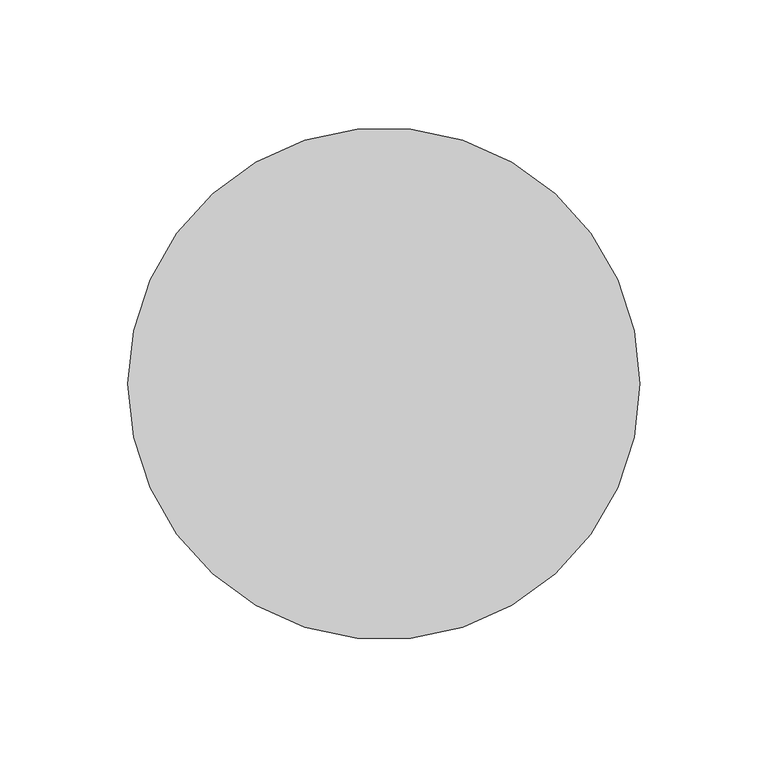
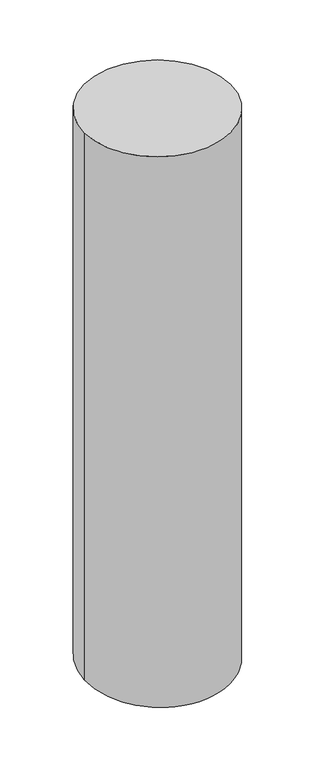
"""IFC4 building model written with IfcOpenShell, lengths in millimetres: member geometry, 矩形竖梃 : 圆瓦."""

from ifc_helpers import new_model, si_unit, frame, origin, origin_with_axes, place, context, project, spatial, circle_curve, ellipse_curve, source, transform, mapped, element, save
from ifc_brep_helpers import plane_surface, cylinder_surface, advanced_brep


def member_f726278f(model_context):
    return source(origin(), model_context, "Body", "AdvancedBrep", [
        advanced_brep(
        [(100.0, 0.0, 0.0), (-100.0, 0.0, 0.0), (100.0, 0.0, -790.1124317), (-100.0, 0.0, -790.1124317)],
        [
            (0, 1, circle_curve(origin_with_axes(), 100.0)),
            (1, 0, circle_curve(origin_with_axes(), 100.0)),
            (0, 2),
            (2, 3, ellipse_curve(frame((0.0, 0.0, -790.1124317), z_axis=(0.0, -0.06182029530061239, 0.9980872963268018), x_axis=(0.0, 0.9980872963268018, 0.06182029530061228)), 100.1916369, 100.0)),
            (3, 1),
            (3, 2, ellipse_curve(frame((0.0, 0.0, -790.1124317), z_axis=(0.0, -0.06182029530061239, 0.9980872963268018), x_axis=(0.0, 0.9980872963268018, 0.06182029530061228)), 100.1916369, 100.0)),
        ],
        [
            plane_surface(frame((0.0, -100.0, 0.0), z_axis=(0.0, 0.0, 1.0), x_axis=(-1.0, 0.0, 0.0))),
            cylinder_surface(origin_with_axes(), 100.0),
            plane_surface(frame((-304.8, 0.0, -790.1124317), z_axis=(0.0, 0.06182029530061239, -0.9980872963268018), x_axis=(0.0, 0.9980872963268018, 0.06182029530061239))),
        ],
        [
            (0, [[1, 2]]),
            (1, [[-1, 3, 4, 5]]),
            (1, [[-2, -5, 6, -3]]),
            (2, [[-6, -4]]),
        ],
    ),
    ])


if __name__ == "__main__":
    model = new_model("IFC4")
    model_context = context("Model", 3, world=origin())
    ifc_project = project(units=[si_unit("LENGTHUNIT", "METRE", prefix="MILLI")], contexts=[model_context])
    site = spatial("IfcSite", under=ifc_project)
    building = spatial("IfcBuilding", under=site)
    placement = place(None, origin())
    member_shape = member_f726278f(model_context)
    element("IfcMember", 1, ObjectType="矩形竖梃 : 圆瓦", at=placement, inside=building, context=model_context, shape_type="MappedRepresentation", body=[
        mapped(member_shape, transform((0.0, 0.0, 0.0), x_axis=(1.0, 0.0, 0.0), y_axis=(0.0, 1.0, 0.0), z_axis=(0.0, 0.0, 1.0))),
    ])
    save(model, "model.ifc")
